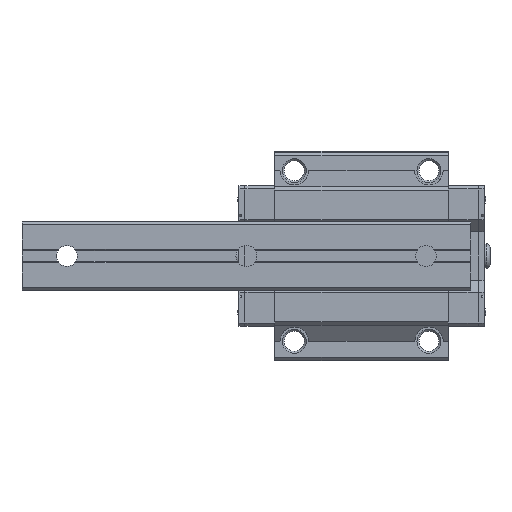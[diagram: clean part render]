
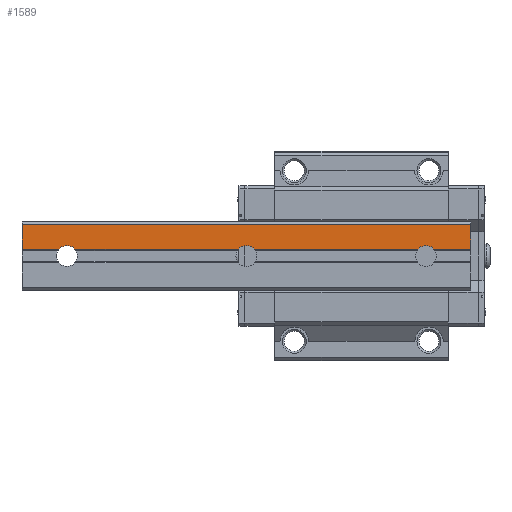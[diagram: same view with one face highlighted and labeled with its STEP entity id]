
A CAD part, front view. The second image highlights one B-rep face of the part: STEP entity #1589.
In plain terms, the highlighted planar face has unit normal (0, -1, 0).
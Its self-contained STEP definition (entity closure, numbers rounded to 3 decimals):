
#1589 = ADVANCED_FACE( '', ( #3169 ), #3170, .F. );
#3169 = FACE_OUTER_BOUND( '', #4758, .T. );
#3170 = PLANE( '', #4759 );
#4758 = EDGE_LOOP( '', ( #9019, #9020, #9021, #9022, #9023, #9024, #9025, #9026, #9027, #9028 ) );
#4759 = AXIS2_PLACEMENT_3D( '', #9029, #9030, #9031 );
#9019 = ORIENTED_EDGE( '', *, *, #10764, .F. );
#9020 = ORIENTED_EDGE( '', *, *, #10212, .F. );
#9021 = ORIENTED_EDGE( '', *, *, #9760, .T. );
#9022 = ORIENTED_EDGE( '', *, *, #9770, .T. );
#9023 = ORIENTED_EDGE( '', *, *, #9813, .F. );
#9024 = ORIENTED_EDGE( '', *, *, #10406, .F. );
#9025 = ORIENTED_EDGE( '', *, *, #10135, .F. );
#9026 = ORIENTED_EDGE( '', *, *, #10897, .F. );
#9027 = ORIENTED_EDGE( '', *, *, #9764, .F. );
#9028 = ORIENTED_EDGE( '', *, *, #10441, .F. );
#9029 = CARTESIAN_POINT( '', ( 75., 0., 10.5 ) );
#9030 = DIRECTION( '', ( 0., 1., 0. ) );
#9031 = DIRECTION( '', ( 0., 0., 1. ) );
#9760 = EDGE_CURVE( '', #11850, #11848, #11851, .T. );
#9764 = EDGE_CURVE( '', #11856, #11857, #11858, .T. );
#9770 = EDGE_CURVE( '', #11848, #11866, #11868, .T. );
#9813 = EDGE_CURVE( '', #11943, #11866, #11944, .T. );
#10135 = EDGE_CURVE( '', #12453, #12455, #12456, .T. );
#10212 = EDGE_CURVE( '', #11850, #12570, #12571, .T. );
#10406 = EDGE_CURVE( '', #12455, #11943, #12855, .T. );
#10441 = EDGE_CURVE( '', #12904, #11856, #12906, .T. );
#10764 = EDGE_CURVE( '', #12570, #12904, #13313, .T. );
#10897 = EDGE_CURVE( '', #11857, #12453, #13471, .T. );
#11848 = VERTEX_POINT( '', #14771 );
#11850 = VERTEX_POINT( '', #14774 );
#11851 = LINE( '', #14775, #14776 );
#11856 = VERTEX_POINT( '', #14783 );
#11857 = VERTEX_POINT( '', #14784 );
#11858 = LINE( '', #14785, #14786 );
#11866 = VERTEX_POINT( '', #14795 );
#11868 = LINE( '', #14798, #14799 );
#11943 = VERTEX_POINT( '', #14906 );
#11944 = LINE( '', #14907, #14908 );
#12453 = VERTEX_POINT( '', #15616 );
#12455 = VERTEX_POINT( '', #15618 );
#12456 = LINE( '', #15619, #15620 );
#12570 = VERTEX_POINT( '', #15836 );
#12571 = LINE( '', #15837, #15838 );
#12855 = CIRCLE( '', #16266, 3.5 );
#12904 = VERTEX_POINT( '', #16330 );
#12906 = CIRCLE( '', #16332, 3.5 );
#13313 = LINE( '', #16963, #16964 );
#13471 = CIRCLE( '', #17197, 3.5 );
#14771 = CARTESIAN_POINT( '', ( -75., 0., 10.5 ) );
#14774 = CARTESIAN_POINT( '', ( 75., 0., 10.5 ) );
#14775 = CARTESIAN_POINT( '', ( 75., 0., 10.5 ) );
#14776 = VECTOR( '', #17857, 1000. );
#14783 = CARTESIAN_POINT( '', ( 57.319, 0., 2.25 ) );
#14784 = CARTESIAN_POINT( '', ( 2.681, 0., 2.25 ) );
#14785 = CARTESIAN_POINT( '', ( 75., 0., 2.25 ) );
#14786 = VECTOR( '', #17860, 1000. );
#14795 = CARTESIAN_POINT( '', ( -75., 0., 2.25 ) );
#14798 = CARTESIAN_POINT( '', ( -75., 0., 10.5 ) );
#14799 = VECTOR( '', #17869, 1000. );
#14906 = CARTESIAN_POINT( '', ( -62.681, 0., 2.25 ) );
#14907 = CARTESIAN_POINT( '', ( 75., 0., 2.25 ) );
#14908 = VECTOR( '', #17917, 1000. );
#15616 = CARTESIAN_POINT( '', ( -2.681, 0., 2.25 ) );
#15618 = CARTESIAN_POINT( '', ( -57.319, 0., 2.25 ) );
#15619 = CARTESIAN_POINT( '', ( 75., 0., 2.25 ) );
#15620 = VECTOR( '', #18252, 1000. );
#15836 = CARTESIAN_POINT( '', ( 75., 0., 2.25 ) );
#15837 = CARTESIAN_POINT( '', ( 75., 0., 10.5 ) );
#15838 = VECTOR( '', #18317, 1000. );
#16266 = AXIS2_PLACEMENT_3D( '', #18499, #18500, #18501 );
#16330 = CARTESIAN_POINT( '', ( 62.681, 0., 2.25 ) );
#16332 = AXIS2_PLACEMENT_3D( '', #18544, #18545, #18546 );
#16963 = CARTESIAN_POINT( '', ( 75., 0., 2.25 ) );
#16964 = VECTOR( '', #18799, 1000. );
#17197 = AXIS2_PLACEMENT_3D( '', #18931, #18932, #18933 );
#17857 = DIRECTION( '', ( -1., 0., 0. ) );
#17860 = DIRECTION( '', ( -1., 0., 0. ) );
#17869 = DIRECTION( '', ( 0., 0., -1. ) );
#17917 = DIRECTION( '', ( -1., 0., 0. ) );
#18252 = DIRECTION( '', ( -1., 0., 0. ) );
#18317 = DIRECTION( '', ( 0., 0., -1. ) );
#18499 = CARTESIAN_POINT( '', ( -60., 0., 0. ) );
#18500 = DIRECTION( '', ( 0., -1., 0. ) );
#18501 = DIRECTION( '', ( 0., 0., -1. ) );
#18544 = CARTESIAN_POINT( '', ( 60., 0., 0. ) );
#18545 = DIRECTION( '', ( 0., -1., 0. ) );
#18546 = DIRECTION( '', ( 0., 0., -1. ) );
#18799 = DIRECTION( '', ( -1., 0., 0. ) );
#18931 = CARTESIAN_POINT( '', ( 0., 0., 0. ) );
#18932 = DIRECTION( '', ( 0., -1., 0. ) );
#18933 = DIRECTION( '', ( 0., 0., -1. ) );
